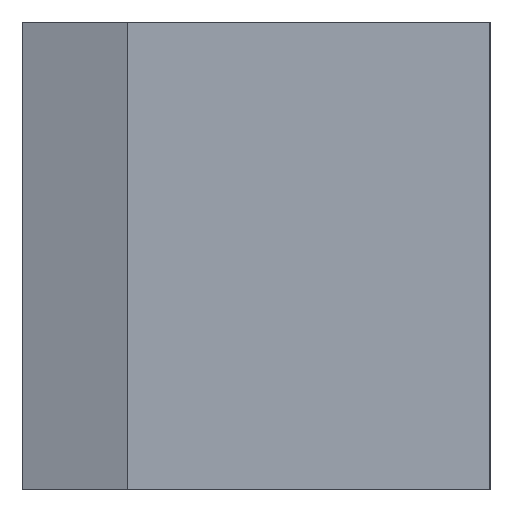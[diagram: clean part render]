
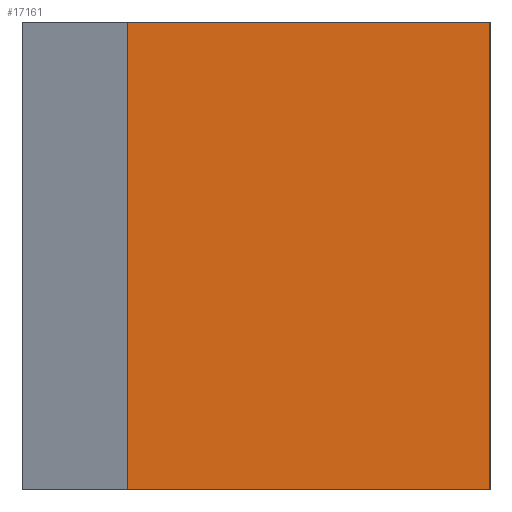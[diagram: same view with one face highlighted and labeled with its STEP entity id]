
A CAD part, left-side view. The second image highlights one B-rep face of the part: STEP entity #17161.
In plain terms, the highlighted planar face has unit normal (-1, 0, 0).
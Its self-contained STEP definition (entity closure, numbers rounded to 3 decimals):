
#15=FACE_OUTER_BOUND('',#874,.T.);
#874=EDGE_LOOP('',(#11160,#11161,#11162,#11163));
#1733=LINE('',#23176,#4304);
#1734=LINE('',#23178,#4305);
#1735=LINE('',#23180,#4306);
#1736=LINE('',#23181,#4307);
#4304=VECTOR('',#18885,23.25);
#4305=VECTOR('',#18886,30.);
#4306=VECTOR('',#18887,23.25);
#4307=VECTOR('',#18888,30.);
#6875=VERTEX_POINT('',#23174);
#6876=VERTEX_POINT('',#23175);
#6877=VERTEX_POINT('',#23177);
#6878=VERTEX_POINT('',#23179);
#8589=EDGE_CURVE('',#6875,#6876,#1733,.T.);
#8590=EDGE_CURVE('',#6876,#6877,#1734,.T.);
#8591=EDGE_CURVE('',#6878,#6877,#1735,.T.);
#8592=EDGE_CURVE('',#6875,#6878,#1736,.T.);
#11160=ORIENTED_EDGE('',*,*,#8589,.T.);
#11161=ORIENTED_EDGE('',*,*,#8590,.T.);
#11162=ORIENTED_EDGE('',*,*,#8591,.F.);
#11163=ORIENTED_EDGE('',*,*,#8592,.F.);
#16302=PLANE('',#18022);
#17161=ADVANCED_FACE('',(#15),#16302,.T.);
#18022=AXIS2_PLACEMENT_3D('',#23173,#18883,#18884);
#18883=DIRECTION('center_axis',(-1.,0.,0.));
#18884=DIRECTION('ref_axis',(0.,-1.,0.));
#18885=DIRECTION('',(0.,-1.,0.));
#18886=DIRECTION('',(0.,0.,1.));
#18887=DIRECTION('',(0.,-1.,0.));
#18888=DIRECTION('',(0.,0.,1.));
#23173=CARTESIAN_POINT('Origin',(37.741,10.743,0.));
#23174=CARTESIAN_POINT('',(37.741,10.743,0.));
#23175=CARTESIAN_POINT('',(37.741,-12.507,0.));
#23176=CARTESIAN_POINT('',(37.741,10.743,0.));
#23177=CARTESIAN_POINT('',(37.741,-12.507,30.));
#23178=CARTESIAN_POINT('',(37.741,-12.507,0.));
#23179=CARTESIAN_POINT('',(37.741,10.743,30.));
#23180=CARTESIAN_POINT('',(37.741,10.743,30.));
#23181=CARTESIAN_POINT('',(37.741,10.743,0.));
